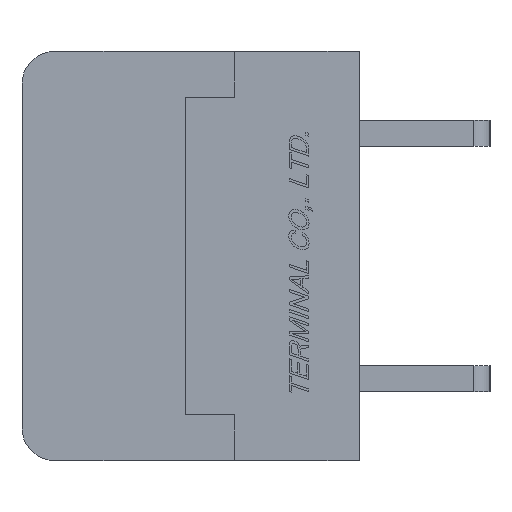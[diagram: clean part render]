
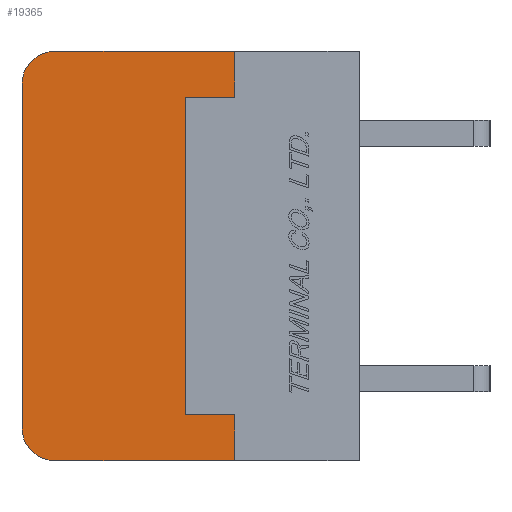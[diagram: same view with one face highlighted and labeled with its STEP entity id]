
A CAD part, left-side view. The second image highlights one B-rep face of the part: STEP entity #19365.
In plain terms, the highlighted planar face has unit normal (-1, 0, 0).
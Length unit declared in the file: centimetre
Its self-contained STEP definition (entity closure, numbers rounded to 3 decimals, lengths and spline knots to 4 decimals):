
#1042=CIRCLE('',#32636,0.1);
#1044=CIRCLE('',#32639,0.1);
#2647=VERTEX_POINT('',#29942);
#2648=VERTEX_POINT('',#29944);
#2650=VERTEX_POINT('',#29950);
#2652=VERTEX_POINT('',#29956);
#2653=VERTEX_POINT('',#29963);
#2654=VERTEX_POINT('',#29964);
#2655=VERTEX_POINT('',#29967);
#2656=VERTEX_POINT('',#29969);
#2657=VERTEX_POINT('',#29971);
#2658=VERTEX_POINT('',#29973);
#4715=VECTOR('',#23734,1.);
#4721=VECTOR('',#23754,1.);
#4722=VECTOR('',#23755,1.);
#4723=VECTOR('',#23756,1.);
#4724=VECTOR('',#23757,1.);
#4725=VECTOR('',#23758,1.);
#4726=VECTOR('',#23759,1.);
#4727=VECTOR('',#23760,1.);
#6851=LINE('',#29943,#4715);
#6857=LINE('',#29962,#4721);
#6858=LINE('',#29965,#4722);
#6859=LINE('',#29966,#4723);
#6860=LINE('',#29968,#4724);
#6861=LINE('',#29970,#4725);
#6862=LINE('',#29972,#4726);
#6863=LINE('',#29974,#4727);
#9679=EDGE_CURVE('',#2647,#2648,#6851,.T.);
#9683=EDGE_CURVE('',#2650,#2647,#1042,.T.);
#9685=EDGE_CURVE('',#2648,#2652,#1044,.T.);
#9689=EDGE_CURVE('',#2653,#2654,#6857,.T.);
#9690=EDGE_CURVE('',#2652,#2653,#6858,.T.);
#9691=EDGE_CURVE('',#2655,#2650,#6859,.T.);
#9692=EDGE_CURVE('',#2656,#2655,#6860,.T.);
#9693=EDGE_CURVE('',#2657,#2656,#6861,.T.);
#9694=EDGE_CURVE('',#2658,#2657,#6862,.T.);
#9695=EDGE_CURVE('',#2654,#2658,#6863,.T.);
#14925=ORIENTED_EDGE('',*,*,#9689,.F.);
#14926=ORIENTED_EDGE('',*,*,#9690,.F.);
#14927=ORIENTED_EDGE('',*,*,#9685,.F.);
#14928=ORIENTED_EDGE('',*,*,#9679,.F.);
#14929=ORIENTED_EDGE('',*,*,#9683,.F.);
#14930=ORIENTED_EDGE('',*,*,#9691,.F.);
#14931=ORIENTED_EDGE('',*,*,#9692,.F.);
#14932=ORIENTED_EDGE('',*,*,#9693,.F.);
#14933=ORIENTED_EDGE('',*,*,#9694,.F.);
#14934=ORIENTED_EDGE('',*,*,#9695,.F.);
#17042=EDGE_LOOP('',(#14925,#14926,#14927,#14928,#14929,#14930,#14931,#14932,
#14933,#14934));
#18238=FACE_BOUND('',#17042,.T.);
#19365=ADVANCED_FACE('',(#18238),#20183,.F.);
#20183=PLANE('',#32641);
#23734=DIRECTION('',(0.,0.,1.));
#23741=DIRECTION('',(1.,0.,0.));
#23742=DIRECTION('',(0.,0.,-0.1));
#23747=DIRECTION('',(1.,0.,0.));
#23748=DIRECTION('',(0.,0.,-0.1));
#23753=DIRECTION('',(1.,0.,0.));
#23754=DIRECTION('',(0.,0.,-1.));
#23755=DIRECTION('',(0.,-1.,0.));
#23756=DIRECTION('',(0.,1.,0.));
#23757=DIRECTION('',(0.,0.,-1.));
#23758=DIRECTION('',(0.,-1.,0.));
#23759=DIRECTION('',(0.,0.,-1.));
#23760=DIRECTION('',(0.,1.,0.));
#29942=CARTESIAN_POINT('',(-0.762,1.03,-0.525));
#29943=CARTESIAN_POINT('',(-0.762,1.03,-0.525));
#29944=CARTESIAN_POINT('',(-0.762,1.03,0.525));
#29950=CARTESIAN_POINT('',(-0.762,0.93,-0.625));
#29951=CARTESIAN_POINT('',(-0.762,0.93,-0.525));
#29955=CARTESIAN_POINT('',(-0.762,0.93,0.525));
#29956=CARTESIAN_POINT('',(-0.762,0.93,0.625));
#29961=CARTESIAN_POINT('',(-0.762,0.5047,0.));
#29962=CARTESIAN_POINT('',(-0.762,0.38,0.625));
#29963=CARTESIAN_POINT('',(-0.762,0.38,0.625));
#29964=CARTESIAN_POINT('',(-0.762,0.38,0.485));
#29965=CARTESIAN_POINT('',(-0.762,0.93,0.625));
#29966=CARTESIAN_POINT('',(-0.762,0.,-0.625));
#29967=CARTESIAN_POINT('',(-0.762,0.38,-0.625));
#29968=CARTESIAN_POINT('',(-0.762,0.38,-0.485));
#29969=CARTESIAN_POINT('',(-0.762,0.38,-0.485));
#29970=CARTESIAN_POINT('',(-0.762,0.53,-0.485));
#29971=CARTESIAN_POINT('',(-0.762,0.53,-0.485));
#29972=CARTESIAN_POINT('',(-0.762,0.53,0.485));
#29973=CARTESIAN_POINT('',(-0.762,0.53,0.485));
#29974=CARTESIAN_POINT('',(-0.762,0.38,0.485));
#32636=AXIS2_PLACEMENT_3D('',#29951,#23741,#23742);
#32639=AXIS2_PLACEMENT_3D('',#29955,#23747,#23748);
#32641=AXIS2_PLACEMENT_3D('',#29961,#23753,$);
